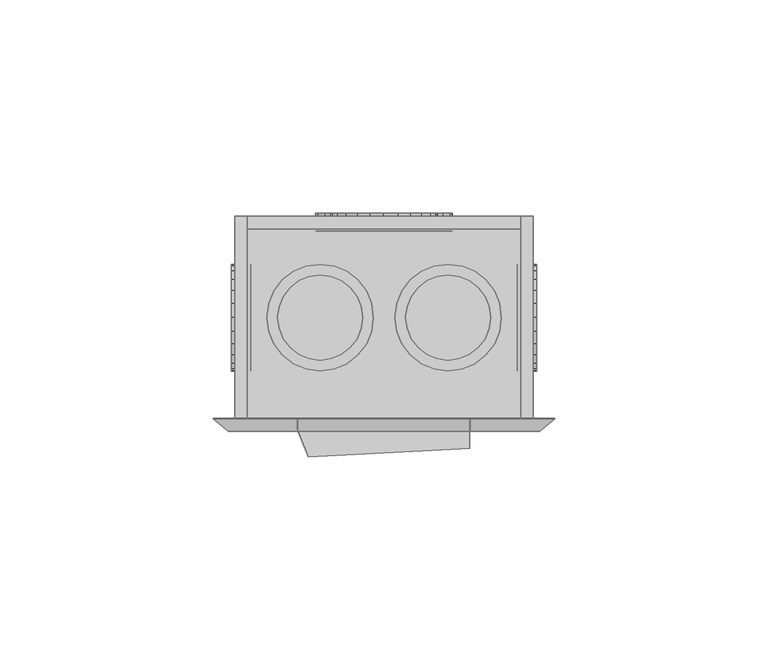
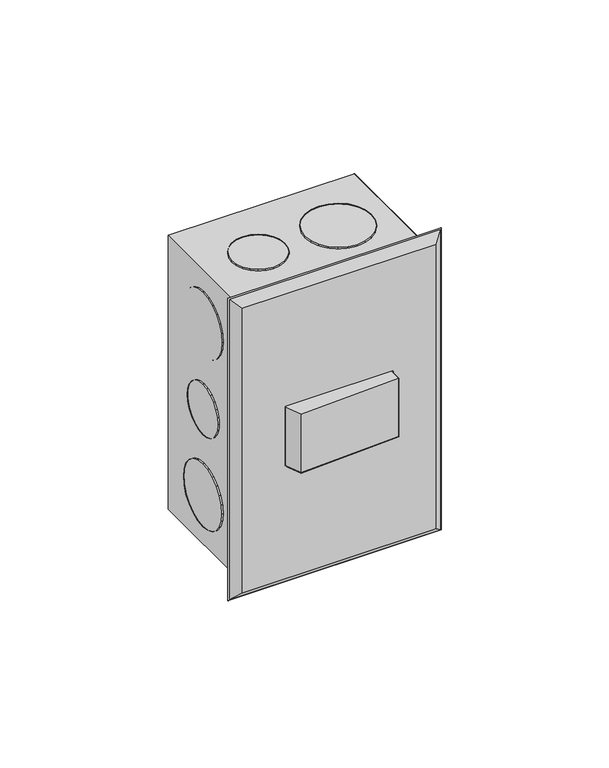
"""IFC4 building model written with IfcOpenShell, lengths in millimetres: proxy geometry,  210443 :  210443."""

from ifc_helpers import new_model, si_unit, origin, place, context, project, spatial, triangles, source, transform, mapped, element, save


def generic_models_f6650e14(model_context):
    return source(origin(), model_context, "Body", "Tessellation", [
        triangles([(31599.7990906, 13148.6997437, 1254.3000378), (31596.7992737, 13148.6997437, 1148.7000154), (31599.7990906, 13148.6997437, 1145.6999805), (31596.7992737, 13148.6997437, 1251.2999302), (31529.8010376, 13148.6997437, 1254.3000378), (31532.8008545, 13148.6997437, 1251.2999302), (31529.8010376, 13148.6997437, 1145.6999805), (31532.8008545, 13148.6997437, 1148.7000154), (31596.7992737, 13196.2003326, 1251.2999302), (31596.7992737, 13196.2003326, 1148.7000154), (31529.8010376, 13196.2003326, 1254.3000378), (31529.8010376, 13196.2003326, 1145.6999805), (31532.8008545, 13196.2003326, 1251.2999302), (31599.7990906, 13196.2003326, 1145.6999805), (31532.8008545, 13196.2003326, 1148.7000154), (31599.7990906, 13196.2003326, 1254.3000378), (31596.7992737, 13193.2005157, 1251.2999302), (31532.8008545, 13193.2005157, 1148.7000154), (31596.7992737, 13193.2005157, 1148.7000154), (31532.8008545, 13193.2005157, 1251.2999302), (31578.7003784, 13192.7005463, 1191.9999887), (31572.8007385, 13192.7005463, 1186.0999855), (31576.1005371, 13192.7005463, 1188.6999722), (31580.3002808, 13192.7005463, 1195.8999687), (31569.0009705, 13192.7005463, 1184.5000105), (31580.8002502, 13192.7005463, 1200.0000092), (31564.7989014, 13192.7005463, 1183.9999683), (31580.3002808, 13192.7005463, 1204.0999769), (31560.6991516, 13192.7005463, 1184.5000105), (31578.7003784, 13192.7005463, 1208.0000296), (31556.7993896, 13192.7005463, 1186.0999855), (31576.1005371, 13192.7005463, 1211.2999735), (31553.4995911, 13192.7005463, 1188.6999722), (31572.8007385, 13192.7005463, 1213.9000328), (31550.9997437, 13192.7005463, 1191.9999887), (31569.0009705, 13192.7005463, 1215.5000078), (31549.3998413, 13192.7005463, 1195.8999687), (31564.7989014, 13192.7005463, 1215.9999773), (31548.7998779, 13192.7005463, 1200.0000092), (31560.6991516, 13192.7005463, 1215.5000078), (31549.3998413, 13192.7005463, 1204.0999769), (31556.7993896, 13192.7005463, 1213.9000328), (31550.9997437, 13192.7005463, 1208.0000296), (31553.4995911, 13192.7005463, 1211.2999735), (31560.6991516, 13196.9002899, 1184.5000105), (31564.7989014, 13196.9002899, 1183.9999683), (31569.0009705, 13196.9002899, 1184.5000105), (31572.8007385, 13196.9002899, 1186.0999855), (31576.1005371, 13196.9002899, 1188.6999722), (31578.7003784, 13196.9002899, 1191.9999887), (31580.3002808, 13196.9002899, 1195.8999687), (31580.8002502, 13196.9002899, 1200.0000092), (31580.3002808, 13196.9002899, 1204.0999769), (31578.7003784, 13196.9002899, 1208.0000296), (31576.1005371, 13196.9002899, 1211.2999735), (31572.8007385, 13196.9002899, 1213.9000328), (31569.0009705, 13196.9002899, 1215.5000078), (31564.7989014, 13196.9002899, 1215.9999773), (31560.6991516, 13196.9002899, 1215.5000078), (31556.7993896, 13196.9002899, 1213.9000328), (31553.4995911, 13196.9002899, 1211.2999735), (31550.9997437, 13196.9002899, 1208.0000296), (31549.3998413, 13196.9002899, 1204.0999769), (31548.7998779, 13196.9002899, 1200.0000092), (31549.3998413, 13196.9002899, 1195.8999687), (31550.9997437, 13196.9002899, 1191.9999887), (31553.4995911, 13196.9002899, 1188.6999722), (31556.7993896, 13196.9002899, 1186.0999855), (31575.7005615, 13192.7005463, 1227.8000565), (31571.1008423, 13192.7005463, 1223.2000465), (31573.7006836, 13192.7005463, 1225.2000698), (31576.9004883, 13192.7005463, 1230.8000187), (31568.1010254, 13192.7005463, 1221.8999805), (31577.3004639, 13192.7005463, 1233.9999687), (31564.7989014, 13192.7005463, 1221.500005), (31576.9004883, 13192.7005463, 1237.2000641), (31561.5990967, 13192.7005463, 1221.8999805), (31575.7005615, 13192.7005463, 1240.3000202), (31558.5992798, 13192.7005463, 1223.2000465), (31573.7006836, 13192.7005463, 1242.800013), (31555.9994385, 13192.7005463, 1225.2000698), (31553.9995605, 13192.7005463, 1227.8000565), (31571.1008423, 13192.7005463, 1244.8000362), (31568.1010254, 13192.7005463, 1246.0999569), (31552.7996338, 13192.7005463, 1230.8000187), (31564.7989014, 13192.7005463, 1246.4999325), (31552.2996643, 13192.7005463, 1233.9999687), (31561.5990967, 13192.7005463, 1246.0999569), (31552.7996338, 13192.7005463, 1237.2000641), (31553.9995605, 13192.7005463, 1240.3000202), (31558.5992798, 13192.7005463, 1244.8000362), (31555.9994385, 13192.7005463, 1242.800013), (31552.7996338, 13196.9002899, 1230.8000187), (31553.9995605, 13196.9002899, 1227.8000565), (31555.9994385, 13196.9002899, 1225.2000698), (31558.5992798, 13196.9002899, 1223.2000465), (31561.5990967, 13196.9002899, 1221.8999805), (31564.7989014, 13196.9002899, 1221.500005), (31568.1010254, 13196.9002899, 1221.8999805), (31571.1008423, 13196.9002899, 1223.2000465), (31573.7006836, 13196.9002899, 1225.2000698), (31575.7005615, 13196.9002899, 1227.8000565), (31576.9004883, 13196.9002899, 1230.8000187), (31577.3004639, 13196.9002899, 1233.9999687), (31576.9004883, 13196.9002899, 1237.2000641), (31575.7005615, 13196.9002899, 1240.3000202), (31573.7006836, 13196.9002899, 1242.800013), (31571.1008423, 13196.9002899, 1244.8000362), (31568.1010254, 13196.9002899, 1246.0999569), (31564.7989014, 13196.9002899, 1246.4999325), (31561.5990967, 13196.9002899, 1246.0999569), (31558.5992798, 13196.9002899, 1244.8000362), (31555.9994385, 13196.9002899, 1242.800013), (31553.9995605, 13196.9002899, 1240.3000202), (31552.7996338, 13196.9002899, 1237.2000641), (31552.2996643, 13196.9002899, 1233.9999687), (31571.1008423, 13196.9002899, 1155.1999821), (31575.7005615, 13196.9002899, 1159.6999981), (31573.7006836, 13196.9002899, 1157.2000053), (31568.1010254, 13196.9002899, 1153.8999887), (31576.9004883, 13196.9002899, 1162.8000269), (31564.7989014, 13196.9002899, 1153.5000132), (31577.3004639, 13196.9002899, 1165.9999769), (31561.5990967, 13196.9002899, 1153.8999887), (31576.9004883, 13196.9002899, 1169.1999996), (31558.5992798, 13196.9002899, 1155.1999821), (31575.7005615, 13196.9002899, 1172.2000345), (31555.9994385, 13196.9002899, 1157.2000053), (31573.7006836, 13196.9002899, 1174.8000212), (31553.9995605, 13196.9002899, 1159.6999981), (31571.1008423, 13196.9002899, 1176.7999718), (31552.7996338, 13196.9002899, 1162.8000269), (31568.1010254, 13196.9002899, 1178.0999651), (31564.7989014, 13196.9002899, 1178.5000134), (31552.2996643, 13196.9002899, 1165.9999769), (31552.7996338, 13196.9002899, 1169.1999996), (31561.5990967, 13196.9002899, 1178.0999651), (31553.9995605, 13196.9002899, 1172.2000345), (31558.5992798, 13196.9002899, 1176.7999718), (31555.9994385, 13196.9002899, 1174.8000212), (31568.1010254, 13192.7005463, 1178.0999651), (31564.7989014, 13192.7005463, 1178.5000134), (31571.1008423, 13192.7005463, 1176.7999718), (31573.7006836, 13192.7005463, 1174.8000212), (31575.7005615, 13192.7005463, 1172.2000345), (31576.9004883, 13192.7005463, 1169.1999996), (31577.3004639, 13192.7005463, 1165.9999769), (31576.9004883, 13192.7005463, 1162.8000269), (31575.7005615, 13192.7005463, 1159.6999981), (31573.7006836, 13192.7005463, 1157.2000053), (31571.1008423, 13192.7005463, 1155.1999821), (31568.1010254, 13192.7005463, 1153.8999887), (31564.7989014, 13192.7005463, 1153.5000132), (31561.5990967, 13192.7005463, 1153.8999887), (31558.5992798, 13192.7005463, 1155.1999821), (31555.9994385, 13192.7005463, 1157.2000053), (31553.9995605, 13192.7005463, 1159.6999981), (31552.7996338, 13192.7005463, 1162.8000269), (31552.2996643, 13192.7005463, 1165.9999769), (31552.7996338, 13192.7005463, 1169.1999996), (31553.9995605, 13192.7005463, 1172.2000345), (31555.9994385, 13192.7005463, 1174.8000212), (31558.5992798, 13192.7005463, 1176.7999718), (31561.5990967, 13192.7005463, 1178.0999651), (31595.9993225, 13177.4003174, 1191.3000315), (31595.9993225, 13181.1000916, 1195.0000237), (31595.9993225, 13179.5001892, 1192.9000065), (31595.9993225, 13182.1000305, 1197.4000225), (31595.9993225, 13175.0004639, 1190.3000198), (31595.9993225, 13182.4000122, 1200.0000092), (31595.9993225, 13172.3994598, 1189.9999655), (31595.9993225, 13169.8996124, 1190.3000198), (31595.9993225, 13182.1000305, 1202.5999958), (31595.9993225, 13181.1000916, 1204.9999947), (31595.9993225, 13167.399765, 1191.3000315), (31595.9993225, 13179.5001892, 1207.1000118), (31595.9993225, 13165.3998871, 1192.9000065), (31595.9993225, 13163.7999847, 1195.0000237), (31595.9993225, 13177.4003174, 1208.6999868), (31595.9993225, 13162.8000458, 1197.4000225), (31595.9993225, 13175.0004639, 1209.6999985), (31595.9993225, 13162.4000702, 1200.0000092), (31595.9993225, 13172.3994598, 1209.9999802), (31595.9993225, 13162.8000458, 1202.5999958), (31595.9993225, 13169.8996124, 1209.6999985), (31595.9993225, 13167.399765, 1208.6999868), (31595.9993225, 13163.7999847, 1204.9999947), (31595.9993225, 13165.3998871, 1207.1000118), (31600.5990417, 13172.3994598, 1189.9999655), (31600.5990417, 13175.0004639, 1190.3000198), (31600.5990417, 13169.8996124, 1190.3000198), (31600.5990417, 13167.399765, 1191.3000315), (31600.5990417, 13165.3998871, 1192.9000065), (31600.5990417, 13163.7999847, 1195.0000237), (31600.5990417, 13162.8000458, 1197.4000225), (31600.5990417, 13162.4000702, 1200.0000092), (31600.5990417, 13162.8000458, 1202.5999958), (31600.5990417, 13163.7999847, 1204.9999947), (31600.5990417, 13165.3998871, 1207.1000118), (31600.5990417, 13167.399765, 1208.6999868), (31600.5990417, 13169.8996124, 1209.6999985), (31600.5990417, 13172.3994598, 1209.9999802), (31600.5990417, 13175.0004639, 1209.6999985), (31600.5990417, 13177.4003174, 1208.6999868), (31600.5990417, 13179.5001892, 1207.1000118), (31600.5990417, 13181.1000916, 1204.9999947), (31600.5990417, 13182.1000305, 1202.5999958), (31600.5990417, 13182.4000122, 1200.0000092), (31600.5990417, 13182.1000305, 1197.4000225), (31600.5990417, 13181.1000916, 1195.0000237), (31600.5990417, 13179.5001892, 1192.9000065), (31600.5990417, 13177.4003174, 1191.3000315), (31595.9993225, 13178.700238, 1223.2000465), (31595.9993225, 13183.2999573, 1227.8000565), (31595.9993225, 13181.3000793, 1225.2000698), (31595.9993225, 13175.7004211, 1221.8999805), (31595.9993225, 13184.499884, 1230.8000187), (31595.9993225, 13184.8998596, 1233.9999687), (31595.9993225, 13172.3994598, 1221.500005), (31595.9993225, 13169.1996552, 1221.8999805), (31595.9993225, 13184.499884, 1237.2000641), (31595.9993225, 13183.2999573, 1240.3000202), (31595.9993225, 13166.1998383, 1223.2000465), (31595.9993225, 13163.5999969, 1225.2000698), (31595.9993225, 13181.3000793, 1242.800013), (31595.9993225, 13161.600119, 1227.8000565), (31595.9993225, 13178.700238, 1244.8000362), (31595.9993225, 13160.4001923, 1230.8000187), (31595.9993225, 13175.7004211, 1246.0999569), (31595.9993225, 13159.9002228, 1233.9999687), (31595.9993225, 13172.3994598, 1246.4999325), (31595.9993225, 13160.4001923, 1237.2000641), (31595.9993225, 13169.1996552, 1246.0999569), (31595.9993225, 13161.600119, 1240.3000202), (31595.9993225, 13166.1998383, 1244.8000362), (31595.9993225, 13163.5999969, 1242.800013), (31600.5990417, 13172.3994598, 1221.500005), (31600.5990417, 13175.7004211, 1221.8999805), (31600.5990417, 13169.1996552, 1221.8999805), (31600.5990417, 13166.1998383, 1223.2000465), (31600.5990417, 13163.5999969, 1225.2000698), (31600.5990417, 13161.600119, 1227.8000565), (31600.5990417, 13160.4001923, 1230.8000187), (31600.5990417, 13159.9002228, 1233.9999687), (31600.5990417, 13160.4001923, 1237.2000641), (31600.5990417, 13161.600119, 1240.3000202), (31600.5990417, 13163.5999969, 1242.800013), (31600.5990417, 13166.1998383, 1244.8000362), (31600.5990417, 13169.1996552, 1246.0999569), (31600.5990417, 13172.3994598, 1246.4999325), (31600.5990417, 13175.7004211, 1246.0999569), (31600.5990417, 13178.700238, 1244.8000362), (31600.5990417, 13181.3000793, 1242.800013), (31600.5990417, 13183.2999573, 1240.3000202), (31600.5990417, 13184.499884, 1237.2000641), (31600.5990417, 13184.8998596, 1233.9999687), (31600.5990417, 13184.499884, 1230.8000187), (31600.5990417, 13183.2999573, 1227.8000565), (31600.5990417, 13181.3000793, 1225.2000698), (31600.5990417, 13178.700238, 1223.2000465), (31600.5990417, 13183.2999573, 1159.6999981), (31600.5990417, 13178.700238, 1155.1999821), (31600.5990417, 13181.3000793, 1157.2000053), (31600.5990417, 13184.499884, 1162.8000269), (31600.5990417, 13175.7004211, 1153.8999887), (31600.5990417, 13184.8998596, 1165.9999769), (31600.5990417, 13172.3994598, 1153.5000132), (31600.5990417, 13184.499884, 1169.1999996), (31600.5990417, 13169.1996552, 1153.8999887), (31600.5990417, 13183.2999573, 1172.2000345), (31600.5990417, 13166.1998383, 1155.1999821), (31600.5990417, 13181.3000793, 1174.8000212), (31600.5990417, 13163.5999969, 1157.2000053), (31600.5990417, 13178.700238, 1176.7999718), (31600.5990417, 13161.600119, 1159.6999981), (31600.5990417, 13175.7004211, 1178.0999651), (31600.5990417, 13160.4001923, 1162.8000269), (31600.5990417, 13172.3994598, 1178.5000134), (31600.5990417, 13159.9002228, 1165.9999769), (31600.5990417, 13169.1996552, 1178.0999651), (31600.5990417, 13160.4001923, 1169.1999996), (31600.5990417, 13166.1998383, 1176.7999718), (31600.5990417, 13161.600119, 1172.2000345), (31600.5990417, 13163.5999969, 1174.8000212), (31595.9993225, 13175.7004211, 1178.0999651), (31595.9993225, 13172.3994598, 1178.5000134), (31595.9993225, 13169.1996552, 1178.0999651), (31595.9993225, 13166.1998383, 1176.7999718), (31595.9993225, 13163.5999969, 1174.8000212), (31595.9993225, 13161.600119, 1172.2000345), (31595.9993225, 13160.4001923, 1169.1999996), (31595.9993225, 13159.9002228, 1165.9999769), (31595.9993225, 13160.4001923, 1162.8000269), (31595.9993225, 13161.600119, 1159.6999981), (31595.9993225, 13163.5999969, 1157.2000053), (31595.9993225, 13166.1998383, 1155.1999821), (31595.9993225, 13169.1996552, 1153.8999887), (31595.9993225, 13172.3994598, 1153.5000132), (31595.9993225, 13175.7004211, 1153.8999887), (31595.9993225, 13178.700238, 1155.1999821), (31595.9993225, 13181.3000793, 1157.2000053), (31595.9993225, 13183.2999573, 1159.6999981), (31595.9993225, 13184.499884, 1162.8000269), (31595.9993225, 13184.8998596, 1165.9999769), (31595.9993225, 13184.499884, 1169.1999996), (31595.9993225, 13183.2999573, 1172.2000345), (31595.9993225, 13181.3000793, 1174.8000212), (31595.9993225, 13178.700238, 1176.7999718), (31533.6008057, 13181.1000916, 1195.0000237), (31533.6008057, 13177.4003174, 1191.3000315), (31533.6008057, 13179.5001892, 1192.9000065), (31533.6008057, 13182.1000305, 1197.4000225), (31533.6008057, 13175.0004639, 1190.3000198), (31533.6008057, 13182.4000122, 1200.0000092), (31533.6008057, 13172.3994598, 1189.9999655), (31533.6008057, 13182.1000305, 1202.5999958), (31533.6008057, 13169.8996124, 1190.3000198), (31533.6008057, 13181.1000916, 1204.9999947), (31533.6008057, 13167.399765, 1191.3000315), (31533.6008057, 13179.5001892, 1207.1000118), (31533.6008057, 13165.3998871, 1192.9000065), (31533.6008057, 13177.4003174, 1208.6999868), (31533.6008057, 13163.7999847, 1195.0000237), (31533.6008057, 13175.0004639, 1209.6999985), (31533.6008057, 13162.8000458, 1197.4000225), (31533.6008057, 13162.4000702, 1200.0000092), (31533.6008057, 13172.3994598, 1209.9999802), (31533.6008057, 13169.8996124, 1209.6999985), (31533.6008057, 13162.8000458, 1202.5999958), (31533.6008057, 13167.399765, 1208.6999868), (31533.6008057, 13163.7999847, 1204.9999947), (31533.6008057, 13165.3998871, 1207.1000118), (31529.0010864, 13175.0004639, 1209.6999985), (31529.0010864, 13172.3994598, 1209.9999802), (31529.0010864, 13169.8996124, 1209.6999985), (31529.0010864, 13167.399765, 1208.6999868), (31529.0010864, 13165.3998871, 1207.1000118), (31529.0010864, 13163.7999847, 1204.9999947), (31529.0010864, 13162.8000458, 1202.5999958), (31529.0010864, 13162.4000702, 1200.0000092), (31529.0010864, 13162.8000458, 1197.4000225), (31529.0010864, 13163.7999847, 1195.0000237), (31529.0010864, 13165.3998871, 1192.9000065), (31529.0010864, 13167.399765, 1191.3000315), (31529.0010864, 13169.8996124, 1190.3000198), (31529.0010864, 13172.3994598, 1189.9999655), (31529.0010864, 13175.0004639, 1190.3000198), (31529.0010864, 13177.4003174, 1191.3000315), (31529.0010864, 13179.5001892, 1192.9000065), (31529.0010864, 13181.1000916, 1195.0000237), (31529.0010864, 13182.1000305, 1197.4000225), (31529.0010864, 13182.4000122, 1200.0000092), (31529.0010864, 13182.1000305, 1202.5999958), (31529.0010864, 13181.1000916, 1204.9999947), (31529.0010864, 13179.5001892, 1207.1000118), (31529.0010864, 13177.4003174, 1208.6999868), (31533.6008057, 13183.2999573, 1159.6999981), (31533.6008057, 13178.700238, 1155.1999821), (31533.6008057, 13181.3000793, 1157.2000053), (31533.6008057, 13184.499884, 1162.8000269), (31533.6008057, 13175.7004211, 1153.8999887), (31533.6008057, 13184.8998596, 1165.9999769), (31533.6008057, 13172.3994598, 1153.5000132), (31533.6008057, 13184.499884, 1169.1999996), (31533.6008057, 13169.1996552, 1153.8999887), (31533.6008057, 13183.2999573, 1172.2000345), (31533.6008057, 13166.1998383, 1155.1999821), (31533.6008057, 13181.3000793, 1174.8000212), (31533.6008057, 13163.5999969, 1157.2000053), (31533.6008057, 13178.700238, 1176.7999718), (31533.6008057, 13161.600119, 1159.6999981), (31533.6008057, 13175.7004211, 1178.0999651), (31533.6008057, 13160.4001923, 1162.8000269), (31533.6008057, 13172.3994598, 1178.5000134), (31533.6008057, 13159.9002228, 1165.9999769), (31533.6008057, 13169.1996552, 1178.0999651), (31533.6008057, 13160.4001923, 1169.1999996), (31533.6008057, 13166.1998383, 1176.7999718), (31533.6008057, 13161.600119, 1172.2000345), (31533.6008057, 13163.5999969, 1174.8000212), (31529.0010864, 13175.7004211, 1178.0999651), (31529.0010864, 13172.3994598, 1178.5000134), (31529.0010864, 13169.1996552, 1178.0999651), (31529.0010864, 13166.1998383, 1176.7999718), (31529.0010864, 13163.5999969, 1174.8000212), (31529.0010864, 13161.600119, 1172.2000345), (31529.0010864, 13160.4001923, 1169.1999996), (31529.0010864, 13159.9002228, 1165.9999769), (31529.0010864, 13160.4001923, 1162.8000269), (31529.0010864, 13161.600119, 1159.6999981), (31529.0010864, 13163.5999969, 1157.2000053), (31529.0010864, 13166.1998383, 1155.1999821), (31529.0010864, 13169.1996552, 1153.8999887), (31529.0010864, 13172.3994598, 1153.5000132), (31529.0010864, 13175.7004211, 1153.8999887), (31529.0010864, 13178.700238, 1155.1999821), (31529.0010864, 13181.3000793, 1157.2000053), (31529.0010864, 13183.2999573, 1159.6999981), (31529.0010864, 13184.499884, 1162.8000269), (31529.0010864, 13184.8998596, 1165.9999769), (31529.0010864, 13184.499884, 1169.1999996), (31529.0010864, 13183.2999573, 1172.2000345), (31529.0010864, 13181.3000793, 1174.8000212), (31529.0010864, 13178.700238, 1176.7999718), (31529.0010864, 13178.700238, 1223.2000465), (31529.0010864, 13183.2999573, 1227.8000565), (31529.0010864, 13181.3000793, 1225.2000698), (31529.0010864, 13175.7004211, 1221.8999805), (31529.0010864, 13184.499884, 1230.8000187), (31529.0010864, 13184.8998596, 1233.9999687), (31529.0010864, 13172.3994598, 1221.500005), (31529.0010864, 13169.1996552, 1221.8999805), (31529.0010864, 13184.499884, 1237.2000641), (31529.0010864, 13183.2999573, 1240.3000202), (31529.0010864, 13166.1998383, 1223.2000465), (31529.0010864, 13163.5999969, 1225.2000698), (31529.0010864, 13181.3000793, 1242.800013), (31529.0010864, 13161.600119, 1227.8000565), (31529.0010864, 13178.700238, 1244.8000362), (31529.0010864, 13160.4001923, 1230.8000187), (31529.0010864, 13175.7004211, 1246.0999569), (31529.0010864, 13159.9002228, 1233.9999687), (31529.0010864, 13172.3994598, 1246.4999325), (31529.0010864, 13160.4001923, 1237.2000641), (31529.0010864, 13169.1996552, 1246.0999569), (31529.0010864, 13161.600119, 1240.3000202), (31529.0010864, 13166.1998383, 1244.8000362), (31529.0010864, 13163.5999969, 1242.800013), (31533.6008057, 13172.3994598, 1221.500005), (31533.6008057, 13175.7004211, 1221.8999805), (31533.6008057, 13169.1996552, 1221.8999805), (31533.6008057, 13166.1998383, 1223.2000465), (31533.6008057, 13163.5999969, 1225.2000698), (31533.6008057, 13161.600119, 1227.8000565), (31533.6008057, 13160.4001923, 1230.8000187), (31533.6008057, 13159.9002228, 1233.9999687), (31533.6008057, 13160.4001923, 1237.2000641), (31533.6008057, 13161.600119, 1240.3000202), (31533.6008057, 13163.5999969, 1242.800013), (31533.6008057, 13166.1998383, 1244.8000362), (31533.6008057, 13169.1996552, 1246.0999569), (31533.6008057, 13172.3994598, 1246.4999325), (31533.6008057, 13175.7004211, 1246.0999569), (31533.6008057, 13178.700238, 1244.8000362), (31533.6008057, 13181.3000793, 1242.800013), (31533.6008057, 13183.2999573, 1240.3000202), (31533.6008057, 13184.499884, 1237.2000641), (31533.6008057, 13184.8998596, 1233.9999687), (31533.6008057, 13184.499884, 1230.8000187), (31533.6008057, 13183.2999573, 1227.8000565), (31533.6008057, 13181.3000793, 1225.2000698), (31533.6008057, 13178.700238, 1223.2000465), (31590.699646, 13178.700238, 1250.9999485), (31586.0999268, 13183.2999573, 1250.9999485), (31588.6997681, 13181.3000793, 1250.9999485), (31591.8995728, 13175.7004211, 1250.9999485), (31583.1001099, 13184.499884, 1250.9999485), (31579.8003113, 13184.8998596, 1250.9999485), (31592.2995483, 13172.3994598, 1250.9999485), (31591.8995728, 13169.1996552, 1250.9999485), (31576.6005066, 13184.499884, 1250.9999485), (31573.6006897, 13183.2999573, 1250.9999485), (31590.699646, 13166.1998383, 1250.9999485), (31588.6997681, 13163.5999969, 1250.9999485), (31571.0008484, 13181.3000793, 1250.9999485), (31569.0009705, 13178.700238, 1250.9999485), (31586.0999268, 13161.600119, 1250.9999485), (31583.1001099, 13160.4001923, 1250.9999485), (31567.8010437, 13175.7004211, 1250.9999485), (31579.8003113, 13159.9002228, 1250.9999485), (31567.3010742, 13172.3994598, 1250.9999485), (31576.6005066, 13160.4001923, 1250.9999485), (31567.8010437, 13169.1996552, 1250.9999485), (31569.0009705, 13166.1998383, 1250.9999485), (31573.6006897, 13161.600119, 1250.9999485), (31571.0008484, 13163.5999969, 1250.9999485), (31579.8003113, 13184.8998596, 1255.1999828), (31576.6005066, 13184.499884, 1255.1999828), (31583.1001099, 13184.499884, 1255.1999828), (31586.0999268, 13183.2999573, 1255.1999828), (31588.6997681, 13181.3000793, 1255.1999828), (31590.699646, 13178.700238, 1255.1999828), (31591.8995728, 13175.7004211, 1255.1999828), (31592.2995483, 13172.3994598, 1255.1999828), (31591.8995728, 13169.1996552, 1255.1999828), (31590.699646, 13166.1998383, 1255.1999828), (31588.6997681, 13163.5999969, 1255.1999828), (31586.0999268, 13161.600119, 1255.1999828), (31583.1001099, 13160.4001923, 1255.1999828), (31579.8003113, 13159.9002228, 1255.1999828), (31576.6005066, 13160.4001923, 1255.1999828), (31573.6006897, 13161.600119, 1255.1999828), (31571.0008484, 13163.5999969, 1255.1999828), (31569.0009705, 13166.1998383, 1255.1999828), (31567.8010437, 13169.1996552, 1255.1999828), (31567.3010742, 13172.3994598, 1255.1999828), (31567.8010437, 13175.7004211, 1255.1999828), (31569.0009705, 13178.700238, 1255.1999828), (31571.0008484, 13181.3000793, 1255.1999828), (31573.6006897, 13183.2999573, 1255.1999828), (31558.4992859, 13177.4003174, 1250.9999485), (31554.7995117, 13181.1000916, 1250.9999485), (31556.8993835, 13179.5001892, 1250.9999485), (31552.3996582, 13182.1000305, 1250.9999485), (31559.4992249, 13175.0004639, 1250.9999485), (31549.7998169, 13182.4000122, 1250.9999485), (31559.7992065, 13172.3994598, 1250.9999485), (31559.4992249, 13169.8996124, 1250.9999485), (31547.1999756, 13182.1000305, 1250.9999485), (31544.8001221, 13181.1000916, 1250.9999485), (31558.4992859, 13167.399765, 1250.9999485), (31542.8002441, 13179.5001892, 1250.9999485), (31556.8993835, 13165.3998871, 1250.9999485), (31554.7995117, 13163.7999847, 1250.9999485), (31541.2003418, 13177.4003174, 1250.9999485), (31540.2004028, 13175.0004639, 1250.9999485), (31552.3996582, 13162.8000458, 1250.9999485), (31549.7998169, 13162.4000702, 1250.9999485), (31539.8004272, 13172.3994598, 1250.9999485), (31547.1999756, 13162.8000458, 1250.9999485), (31540.2004028, 13169.8996124, 1250.9999485), (31544.8001221, 13163.7999847, 1250.9999485), (31541.2003418, 13167.399765, 1250.9999485), (31542.8002441, 13165.3998871, 1250.9999485), (31547.1999756, 13182.1000305, 1255.1999828), (31544.8001221, 13181.1000916, 1255.1999828), (31549.7998169, 13182.4000122, 1255.1999828), (31552.3996582, 13182.1000305, 1255.1999828), (31554.7995117, 13181.1000916, 1255.1999828), (31556.8993835, 13179.5001892, 1255.1999828), (31558.4992859, 13177.4003174, 1255.1999828), (31559.4992249, 13175.0004639, 1255.1999828), (31559.7992065, 13172.3994598, 1255.1999828), (31559.4992249, 13169.8996124, 1255.1999828), (31558.4992859, 13167.399765, 1255.1999828), (31556.8993835, 13165.3998871, 1255.1999828), (31554.7995117, 13163.7999847, 1255.1999828), (31552.3996582, 13162.8000458, 1255.1999828), (31549.7998169, 13162.4000702, 1255.1999828), (31547.1999756, 13162.8000458, 1255.1999828), (31544.8001221, 13163.7999847, 1255.1999828), (31542.8002441, 13165.3998871, 1255.1999828), (31541.2003418, 13167.399765, 1255.1999828), (31540.2004028, 13169.8996124, 1255.1999828), (31539.8004272, 13172.3994598, 1255.1999828), (31540.2004028, 13175.0004639, 1255.1999828), (31541.2003418, 13177.4003174, 1255.1999828), (31542.8002441, 13179.5001892, 1255.1999828), (31588.4997803, 13177.4003174, 1144.8000355), (31584.8000061, 13181.1000916, 1144.8000355), (31586.8998779, 13179.5001892, 1144.8000355), (31582.4001526, 13182.1000305, 1144.8000355), (31589.4997192, 13175.0004639, 1144.8000355), (31579.8003113, 13182.4000122, 1144.8000355), (31589.7997009, 13172.3994598, 1144.8000355), (31589.4997192, 13169.8996124, 1144.8000355), (31577.20047, 13182.1000305, 1144.8000355), (31574.8006165, 13181.1000916, 1144.8000355), (31588.4997803, 13167.399765, 1144.8000355), (31572.8007385, 13179.5001892, 1144.8000355), (31586.8998779, 13165.3998871, 1144.8000355), (31584.8000061, 13163.7999847, 1144.8000355), (31571.2008362, 13177.4003174, 1144.8000355), (31570.2008972, 13175.0004639, 1144.8000355), (31582.4001526, 13162.8000458, 1144.8000355), (31579.8003113, 13162.4000702, 1144.8000355), (31569.8009216, 13172.3994598, 1144.8000355), (31577.20047, 13162.8000458, 1144.8000355), (31570.2008972, 13169.8996124, 1144.8000355), (31574.8006165, 13163.7999847, 1144.8000355), (31571.2008362, 13167.399765, 1144.8000355), (31572.8007385, 13165.3998871, 1144.8000355), (31582.4001526, 13182.1000305, 1149.099991), (31579.8003113, 13182.4000122, 1149.099991), (31584.8000061, 13181.1000916, 1149.099991), (31586.8998779, 13179.5001892, 1149.099991), (31588.4997803, 13177.4003174, 1149.099991), (31589.4997192, 13175.0004639, 1149.099991), (31589.7997009, 13172.3994598, 1149.099991), (31589.4997192, 13169.8996124, 1149.099991), (31588.4997803, 13167.399765, 1149.099991), (31586.8998779, 13165.3998871, 1149.099991), (31584.8000061, 13163.7999847, 1149.099991), (31582.4001526, 13162.8000458, 1149.099991), (31579.8003113, 13162.4000702, 1149.099991), (31577.20047, 13162.8000458, 1149.099991), (31574.8006165, 13163.7999847, 1149.099991), (31572.8007385, 13165.3998871, 1149.099991), (31571.2008362, 13167.399765, 1149.099991), (31570.2008972, 13169.8996124, 1149.099991), (31569.8009216, 13172.3994598, 1149.099991), (31570.2008972, 13175.0004639, 1149.099991), (31571.2008362, 13177.4003174, 1149.099991), (31572.8007385, 13179.5001892, 1149.099991), (31574.8006165, 13181.1000916, 1149.099991), (31577.20047, 13182.1000305, 1149.099991), (31560.6991516, 13178.700238, 1144.8000355), (31556.0994324, 13183.2999573, 1144.8000355), (31558.6992737, 13181.3000793, 1144.8000355), (31561.8990784, 13175.7004211, 1144.8000355), (31553.0996155, 13184.499884, 1144.8000355), (31549.7998169, 13184.8998596, 1144.8000355), (31562.299054, 13172.3994598, 1144.8000355), (31561.8990784, 13169.1996552, 1144.8000355), (31546.6000122, 13184.499884, 1144.8000355), (31543.6001953, 13183.2999573, 1144.8000355), (31560.6991516, 13166.1998383, 1144.8000355), (31558.6992737, 13163.5999969, 1144.8000355), (31541.000354, 13181.3000793, 1144.8000355), (31539.0004761, 13178.700238, 1144.8000355), (31556.0994324, 13161.600119, 1144.8000355), (31553.0996155, 13160.4001923, 1144.8000355), (31537.8005493, 13175.7004211, 1144.8000355), (31549.7998169, 13159.9002228, 1144.8000355), (31537.3005798, 13172.3994598, 1144.8000355), (31546.6000122, 13160.4001923, 1144.8000355), (31537.8005493, 13169.1996552, 1144.8000355), (31539.0004761, 13166.1998383, 1144.8000355), (31543.6001953, 13161.600119, 1144.8000355), (31541.000354, 13163.5999969, 1144.8000355), (31546.6000122, 13184.499884, 1149.099991), (31543.6001953, 13183.2999573, 1149.099991), (31549.7998169, 13184.8998596, 1149.099991), (31553.0996155, 13184.499884, 1149.099991), (31556.0994324, 13183.2999573, 1149.099991), (31558.6992737, 13181.3000793, 1149.099991), (31560.6991516, 13178.700238, 1149.099991), (31561.8990784, 13175.7004211, 1149.099991), (31562.299054, 13172.3994598, 1149.099991), (31561.8990784, 13169.1996552, 1149.099991), (31560.6991516, 13166.1998383, 1149.099991), (31558.6992737, 13163.5999969, 1149.099991), (31556.0994324, 13161.600119, 1149.099991), (31553.0996155, 13160.4001923, 1149.099991), (31549.7998169, 13159.9002228, 1149.099991), (31546.6000122, 13160.4001923, 1149.099991), (31543.6001953, 13161.600119, 1149.099991), (31541.000354, 13163.5999969, 1149.099991), (31539.0004761, 13166.1998383, 1149.099991), (31537.8005493, 13169.1996552, 1149.099991), (31537.3005798, 13172.3994598, 1149.099991), (31537.8005493, 13175.7004211, 1149.099991), (31539.0004761, 13178.700238, 1149.099991), (31541.000354, 13181.3000793, 1149.099991), (31524.7990173, 13148.6997437, 1139.9999651), (31584.9999939, 13148.6997437, 1188.2999966), (31604.8011108, 13148.6997437, 1139.9999651), (31544.6001343, 13148.6997437, 1188.2999966), (31524.7990173, 13148.6997437, 1259.9999805), (31544.6001343, 13148.6997437, 1211.7000217), (31604.8011108, 13148.6997437, 1259.9999805), (31584.9999939, 13148.6997437, 1211.7000217), (31544.6001343, 13145.6999268, 1188.2999966), (31544.6001343, 13145.6999268, 1211.7000217), (31584.9999939, 13145.6999268, 1188.2999966), (31584.9999939, 13145.6999268, 1211.7000217), (31601.298999, 13145.6999268, 1143.4999695), (31601.298999, 13145.6999268, 1256.5000488), (31528.3011292, 13145.6999268, 1143.4999695), (31528.3011292, 13145.6999268, 1256.5000488), (31584.9, 13141.7001709, 1188.1000088), (31544.5001404, 13148.6997437, 1188.1000088), (31584.9, 13148.6997437, 1188.1000088), (31547.0999817, 13139.8002869, 1188.1000088), (31544.5001404, 13146.1998962, 1188.1000088), (31584.9, 13148.6997437, 1211.500034), (31544.5001404, 13148.6997437, 1211.500034), (31584.9, 13141.7001709, 1211.500034), (31547.0999817, 13139.8002869, 1211.500034), (31544.5001404, 13146.1998962, 1211.500034)], [[1, 2, 3], [2, 1, 4], [5, 4, 1], [4, 5, 6], [3, 2, 7], [7, 2, 8], [7, 8, 6], [7, 6, 5], [2, 9, 10], [9, 2, 4], [7, 11, 12], [11, 7, 5], [4, 13, 9], [13, 4, 6], [3, 12, 14], [12, 3, 7], [13, 8, 15], [8, 13, 6], [16, 3, 14], [3, 16, 1], [15, 2, 10], [2, 15, 8], [11, 1, 16], [1, 11, 5], [12, 10, 14], [10, 12, 15], [11, 15, 12], [15, 11, 13], [14, 10, 16], [16, 10, 9], [16, 9, 13], [16, 13, 11], [17, 18, 19], [18, 17, 20], [18, 13, 15], [13, 18, 20], [19, 15, 10], [15, 19, 18], [9, 19, 10], [19, 9, 17], [13, 17, 9], [17, 13, 20], [15, 9, 10], [9, 15, 13], [21, 22, 23], [22, 21, 24], [25, 22, 24], [25, 24, 26], [27, 25, 26], [27, 26, 28], [29, 27, 28], [29, 28, 30], [31, 29, 30], [31, 30, 32], [31, 32, 33], [33, 32, 34], [33, 34, 35], [35, 34, 36], [35, 36, 37], [37, 36, 38], [37, 38, 39], [39, 38, 40], [39, 40, 41], [41, 40, 42], [41, 42, 43], [43, 42, 44], [27, 45, 46], [45, 27, 29], [25, 46, 47], [46, 25, 27], [22, 47, 48], [47, 22, 25], [23, 48, 49], [48, 23, 22], [50, 23, 49], [23, 50, 21], [51, 21, 50], [21, 51, 24], [52, 24, 51], [24, 52, 26], [53, 26, 52], [26, 53, 28], [54, 28, 53], [28, 54, 30], [55, 30, 54], [30, 55, 32], [56, 32, 55], [32, 56, 34], [57, 34, 56], [34, 57, 36], [58, 36, 57], [36, 58, 38], [59, 38, 58], [38, 59, 40], [60, 40, 59], [40, 60, 42], [61, 42, 60], [42, 61, 44], [43, 61, 62], [61, 43, 44], [41, 62, 63], [62, 41, 43], [39, 63, 64], [63, 39, 41], [37, 64, 65], [64, 37, 39], [35, 65, 66], [65, 35, 37], [33, 66, 67], [66, 33, 35], [31, 67, 68], [67, 31, 33], [29, 68, 45], [68, 29, 31], [48, 50, 49], [50, 48, 47], [51, 50, 47], [51, 47, 46], [52, 51, 46], [52, 46, 45], [53, 52, 45], [53, 45, 68], [54, 53, 68], [54, 68, 67], [54, 67, 55], [55, 67, 66], [55, 66, 56], [56, 66, 65], [56, 65, 57], [57, 65, 64], [57, 64, 58], [58, 64, 63], [58, 63, 59], [59, 63, 62], [59, 62, 60], [60, 62, 61], [69, 70, 71], [70, 69, 72], [73, 70, 72], [73, 72, 74], [75, 73, 74], [75, 74, 76], [77, 75, 76], [77, 76, 78], [79, 77, 78], [79, 78, 80], [81, 79, 80], [81, 80, 82], [82, 80, 83], [82, 83, 84], [82, 84, 85], [85, 84, 86], [85, 86, 87], [87, 86, 88], [87, 88, 89], [89, 88, 90], [90, 88, 91], [90, 91, 92], [82, 93, 94], [93, 82, 85], [81, 94, 95], [94, 81, 82], [79, 95, 96], [95, 79, 81], [77, 96, 97], [96, 77, 79], [75, 97, 98], [97, 75, 77], [73, 98, 99], [98, 73, 75], [70, 99, 100], [99, 70, 73], [71, 100, 101], [100, 71, 70], [102, 71, 101], [71, 102, 69], [103, 69, 102], [69, 103, 72], [104, 72, 103], [72, 104, 74], [105, 74, 104], [74, 105, 76], [106, 76, 105], [76, 106, 78], [107, 78, 106], [78, 107, 80], [108, 80, 107], [80, 108, 83], [109, 83, 108], [83, 109, 84], [110, 84, 109], [84, 110, 86], [111, 86, 110], [86, 111, 88], [112, 88, 111], [88, 112, 91], [113, 91, 112], [91, 113, 92], [90, 113, 114], [113, 90, 92], [89, 114, 115], [114, 89, 90], [87, 115, 116], [115, 87, 89], [85, 116, 93], [116, 85, 87], [100, 102, 101], [102, 100, 99], [103, 102, 99], [103, 99, 98], [104, 103, 98], [104, 98, 97], [105, 104, 97], [106, 105, 97], [106, 97, 96], [106, 96, 95], [106, 95, 107], [107, 95, 94], [107, 94, 108], [108, 94, 93], [108, 93, 109], [109, 93, 116], [109, 116, 110], [110, 116, 115], [110, 115, 111], [111, 115, 114], [111, 114, 112], [112, 114, 113], [117, 118, 119], [118, 117, 120], [121, 118, 120], [121, 120, 122], [123, 121, 122], [123, 122, 124], [125, 123, 124], [125, 124, 126], [127, 125, 126], [127, 126, 128], [127, 128, 129], [129, 128, 130], [129, 130, 131], [131, 130, 132], [131, 132, 133], [133, 132, 134], [134, 132, 135], [134, 135, 136], [134, 136, 137], [137, 136, 138], [137, 138, 139], [139, 138, 140], [134, 141, 133], [141, 134, 142], [133, 143, 131], [143, 133, 141], [131, 144, 129], [144, 131, 143], [129, 145, 127], [145, 129, 144], [127, 146, 125], [146, 127, 145], [125, 147, 123], [147, 125, 146], [123, 148, 121], [148, 123, 147], [121, 149, 118], [149, 121, 148], [118, 150, 119], [150, 118, 149], [150, 117, 119], [117, 150, 151], [151, 120, 117], [120, 151, 152], [152, 122, 120], [122, 152, 153], [153, 124, 122], [124, 153, 154], [154, 126, 124], [126, 154, 155], [155, 128, 126], [128, 155, 156], [156, 130, 128], [130, 156, 157], [157, 132, 130], [132, 157, 158], [158, 135, 132], [135, 158, 159], [159, 136, 135], [136, 159, 160], [160, 138, 136], [138, 160, 161], [161, 140, 138], [140, 161, 162], [140, 163, 139], [163, 140, 162], [139, 164, 137], [164, 139, 163], [137, 142, 134], [142, 137, 164], [149, 151, 150], [151, 149, 148], [152, 151, 148], [153, 152, 148], [153, 148, 147], [153, 147, 146], [154, 153, 146], [154, 146, 145], [155, 154, 145], [155, 145, 144], [156, 155, 144], [156, 144, 157], [157, 144, 143], [157, 143, 141], [157, 141, 158], [158, 141, 142], [158, 142, 159], [159, 142, 164], [159, 164, 160], [160, 164, 163], [160, 163, 161], [161, 163, 162], [165, 166, 167], [168, 166, 165], [168, 165, 169], [170, 168, 169], [170, 169, 171], [170, 171, 172], [173, 170, 172], [174, 173, 172], [174, 172, 175], [176, 174, 175], [176, 175, 177], [176, 177, 178], [176, 178, 179], [179, 178, 180], [179, 180, 181], [181, 180, 182], [181, 182, 183], [183, 182, 184], [183, 184, 185], [185, 184, 186], [186, 184, 187], [186, 187, 188], [189, 169, 190], [169, 189, 171], [191, 171, 189], [171, 191, 172], [192, 172, 191], [172, 192, 175], [193, 175, 192], [175, 193, 177], [194, 177, 193], [177, 194, 178], [195, 178, 194], [178, 195, 180], [196, 180, 195], [180, 196, 182], [197, 182, 196], [182, 197, 184], [198, 184, 197], [184, 198, 187], [199, 187, 198], [187, 199, 188], [186, 199, 200], [199, 186, 188], [185, 200, 201], [200, 185, 186], [183, 201, 202], [201, 183, 185], [181, 202, 203], [202, 181, 183], [179, 203, 204], [203, 179, 181], [176, 204, 205], [204, 176, 179], [174, 205, 206], [205, 174, 176], [173, 206, 207], [206, 173, 174], [170, 207, 208], [207, 170, 173], [168, 208, 209], [208, 168, 170], [166, 209, 210], [209, 166, 168], [167, 210, 211], [210, 167, 166], [212, 167, 211], [167, 212, 165], [190, 165, 212], [165, 190, 169], [210, 212, 211], [212, 210, 209], [190, 212, 209], [190, 209, 208], [189, 190, 208], [189, 208, 207], [191, 189, 207], [191, 207, 206], [192, 191, 206], [192, 206, 205], [192, 205, 193], [193, 205, 204], [193, 204, 194], [194, 204, 203], [194, 203, 195], [195, 203, 196], [196, 203, 202], [196, 202, 201], [196, 201, 197], [197, 201, 200], [197, 200, 198], [198, 200, 199], [213, 214, 215], [214, 213, 216], [217, 214, 216], [218, 217, 216], [218, 216, 219], [218, 219, 220], [221, 218, 220], [222, 221, 220], [222, 220, 223], [222, 223, 224], [222, 224, 225], [225, 224, 226], [225, 226, 227], [227, 226, 228], [227, 228, 229], [229, 228, 230], [229, 230, 231], [231, 230, 232], [231, 232, 233], [233, 232, 234], [233, 234, 235], [235, 234, 236], [237, 216, 238], [216, 237, 219], [239, 219, 237], [219, 239, 220], [240, 220, 239], [220, 240, 223], [241, 223, 240], [223, 241, 224], [242, 224, 241], [224, 242, 226], [243, 226, 242], [226, 243, 228], [244, 228, 243], [228, 244, 230], [245, 230, 244], [230, 245, 232], [246, 232, 245], [232, 246, 234], [247, 234, 246], [234, 247, 236], [235, 247, 248], [247, 235, 236], [233, 248, 249], [248, 233, 235], [231, 249, 250], [249, 231, 233], [229, 250, 251], [250, 229, 231], [227, 251, 252], [251, 227, 229], [225, 252, 253], [252, 225, 227], [222, 253, 254], [253, 222, 225], [221, 254, 255], [254, 221, 222], [218, 255, 256], [255, 218, 221], [217, 256, 257], [256, 217, 218], [214, 257, 258], [257, 214, 217], [215, 258, 259], [258, 215, 214], [260, 215, 259], [215, 260, 213], [238, 213, 260], [213, 238, 216], [258, 260, 259], [260, 258, 257], [238, 260, 257], [238, 257, 256], [237, 238, 256], [237, 256, 255], [239, 237, 255], [239, 255, 254], [240, 239, 254], [240, 254, 253], [241, 240, 253], [241, 253, 252], [241, 252, 242], [242, 252, 251], [242, 251, 243], [243, 251, 244], [244, 251, 250], [244, 250, 249], [244, 249, 245], [245, 249, 246], [246, 249, 248], [246, 248, 247], [261, 262, 263], [262, 261, 264], [265, 262, 264], [265, 264, 266], [267, 265, 266], [267, 266, 268], [269, 267, 268], [269, 268, 270], [271, 269, 270], [271, 270, 272], [273, 271, 272], [273, 272, 274], [273, 274, 275], [275, 274, 276], [275, 276, 277], [277, 276, 278], [277, 278, 279], [279, 278, 280], [279, 280, 281], [281, 280, 282], [281, 282, 283], [283, 282, 284], [285, 278, 276], [278, 285, 286], [286, 280, 278], [280, 286, 287], [287, 282, 280], [282, 287, 288], [288, 284, 282], [284, 288, 289], [284, 290, 283], [290, 284, 289], [283, 291, 281], [291, 283, 290], [281, 292, 279], [292, 281, 291], [279, 293, 277], [293, 279, 292], [277, 294, 275], [294, 277, 293], [275, 295, 273], [295, 275, 294], [273, 296, 271], [296, 273, 295], [271, 297, 269], [297, 271, 296], [269, 298, 267], [298, 269, 297], [267, 299, 265], [299, 267, 298], [265, 300, 262], [300, 265, 299], [262, 301, 263], [301, 262, 300], [301, 261, 263], [261, 301, 302], [302, 264, 261], [264, 302, 303], [303, 266, 264], [266, 303, 304], [304, 268, 266], [268, 304, 305], [305, 270, 268], [270, 305, 306], [306, 272, 270], [272, 306, 307], [307, 274, 272], [274, 307, 308], [308, 276, 274], [276, 308, 285], [300, 302, 301], [302, 300, 299], [303, 302, 299], [303, 299, 298], [304, 303, 298], [304, 298, 297], [305, 304, 297], [305, 297, 296], [306, 305, 296], [306, 296, 295], [306, 295, 307], [307, 295, 294], [307, 294, 308], [308, 294, 293], [308, 293, 285], [285, 293, 286], [286, 293, 292], [286, 292, 291], [286, 291, 287], [287, 291, 288], [288, 291, 290], [288, 290, 289], [309, 310, 311], [310, 309, 312], [313, 310, 312], [313, 312, 314], [315, 313, 314], [315, 314, 316], [317, 315, 316], [317, 316, 318], [319, 317, 318], [319, 318, 320], [319, 320, 321], [321, 320, 322], [321, 322, 323], [323, 322, 324], [323, 324, 325], [325, 324, 326], [326, 324, 327], [326, 327, 328], [326, 328, 329], [329, 328, 330], [329, 330, 331], [331, 330, 332], [333, 327, 324], [327, 333, 334], [334, 328, 327], [328, 334, 335], [335, 330, 328], [330, 335, 336], [336, 332, 330], [332, 336, 337], [332, 338, 331], [338, 332, 337], [331, 339, 329], [339, 331, 338], [329, 340, 326], [340, 329, 339], [326, 341, 325], [341, 326, 340], [325, 342, 323], [342, 325, 341], [323, 343, 321], [343, 323, 342], [321, 344, 319], [344, 321, 343], [319, 345, 317], [345, 319, 344], [317, 346, 315], [346, 317, 345], [315, 347, 313], [347, 315, 346], [313, 348, 310], [348, 313, 347], [310, 349, 311], [349, 310, 348], [349, 309, 311], [309, 349, 350], [350, 312, 309], [312, 350, 351], [351, 314, 312], [314, 351, 352], [352, 316, 314], [316, 352, 353], [353, 318, 316], [318, 353, 354], [354, 320, 318], [320, 354, 355], [355, 322, 320], [322, 355, 356], [356, 324, 322], [324, 356, 333], [348, 350, 349], [351, 350, 348], [351, 348, 347], [352, 351, 347], [352, 347, 346], [352, 346, 345], [353, 352, 345], [354, 353, 345], [354, 345, 344], [355, 354, 344], [355, 344, 343], [355, 343, 342], [355, 342, 356], [356, 342, 341], [356, 341, 333], [333, 341, 340], [333, 340, 334], [334, 340, 339], [334, 339, 335], [335, 339, 336], [336, 339, 338], [336, 338, 337], [357, 358, 359], [358, 357, 360], [361, 358, 360], [361, 360, 362], [363, 361, 362], [363, 362, 364], [365, 363, 364], [365, 364, 366], [367, 365, 366], [367, 366, 368], [369, 367, 368], [369, 368, 370], [369, 370, 371], [371, 370, 372], [371, 372, 373], [373, 372, 374], [373, 374, 375], [375, 374, 376], [375, 376, 377], [377, 376, 378], [377, 378, 379], [379, 378, 380], [381, 374, 372], [374, 381, 382], [382, 376, 374], [376, 382, 383], [383, 378, 376], [378, 383, 384], [384, 380, 378], [380, 384, 385], [380, 386, 379], [386, 380, 385], [379, 387, 377], [387, 379, 386], [377, 388, 375], [388, 377, 387], [375, 389, 373], [389, 375, 388], [373, 390, 371], [390, 373, 389], [371, 391, 369], [391, 371, 390], [369, 392, 367], [392, 369, 391], [367, 393, 365], [393, 367, 392], [365, 394, 363], [394, 365, 393], [363, 395, 361], [395, 363, 394], [361, 396, 358], [396, 361, 395], [358, 397, 359], [397, 358, 396], [397, 357, 359], [357, 397, 398], [398, 360, 357], [360, 398, 399], [399, 362, 360], [362, 399, 400], [400, 364, 362], [364, 400, 401], [401, 366, 364], [366, 401, 402], [402, 368, 366], [368, 402, 403], [403, 370, 368], [370, 403, 404], [404, 372, 370], [372, 404, 381], [396, 398, 397], [398, 396, 395], [399, 398, 395], [399, 395, 394], [400, 399, 394], [400, 394, 393], [401, 400, 393], [401, 393, 392], [402, 401, 392], [402, 392, 391], [402, 391, 403], [403, 391, 390], [403, 390, 404], [404, 390, 389], [404, 389, 381], [381, 389, 382], [382, 389, 388], [382, 388, 387], [382, 387, 383], [383, 387, 384], [384, 387, 386], [384, 386, 385], [405, 406, 407], [406, 405, 408], [409, 406, 408], [410, 409, 408], [410, 408, 411], [410, 411, 412], [413, 410, 412], [414, 413, 412], [414, 412, 415], [414, 415, 416], [414, 416, 417], [417, 416, 418], [417, 418, 419], [419, 418, 420], [419, 420, 421], [421, 420, 422], [421, 422, 423], [423, 422, 424], [423, 424, 425], [425, 424, 426], [425, 426, 427], [427, 426, 428], [429, 408, 430], [408, 429, 411], [431, 411, 429], [411, 431, 412], [432, 412, 431], [412, 432, 415], [433, 415, 432], [415, 433, 416], [434, 416, 433], [416, 434, 418], [435, 418, 434], [418, 435, 420], [436, 420, 435], [420, 436, 422], [437, 422, 436], [422, 437, 424], [438, 424, 437], [424, 438, 426], [439, 426, 438], [426, 439, 428], [427, 439, 440], [439, 427, 428], [425, 440, 441], [440, 425, 427], [423, 441, 442], [441, 423, 425], [421, 442, 443], [442, 421, 423], [419, 443, 444], [443, 419, 421], [417, 444, 445], [444, 417, 419], [414, 445, 446], [445, 414, 417], [413, 446, 447], [446, 413, 414], [410, 447, 448], [447, 410, 413], [409, 448, 449], [448, 409, 410], [406, 449, 450], [449, 406, 409], [407, 450, 451], [450, 407, 406], [452, 407, 451], [407, 452, 405], [430, 405, 452], [405, 430, 408], [450, 452, 451], [452, 450, 449], [430, 452, 449], [430, 449, 448], [429, 430, 448], [429, 448, 447], [431, 429, 447], [431, 447, 446], [432, 431, 446], [432, 446, 445], [433, 432, 445], [433, 445, 444], [433, 444, 434], [434, 444, 443], [434, 443, 435], [435, 443, 436], [436, 443, 442], [436, 442, 441], [436, 441, 437], [437, 441, 438], [438, 441, 440], [438, 440, 439], [453, 454, 455], [454, 453, 456], [457, 454, 456], [458, 457, 456], [458, 456, 459], [458, 459, 460], [461, 458, 460], [462, 461, 460], [462, 460, 463], [462, 463, 464], [462, 464, 465], [465, 464, 466], [466, 464, 467], [466, 467, 468], [466, 468, 469], [469, 468, 470], [469, 470, 471], [471, 470, 472], [471, 472, 473], [473, 472, 474], [474, 472, 475], [474, 475, 476], [461, 477, 458], [477, 461, 478], [458, 479, 457], [479, 458, 477], [457, 480, 454], [480, 457, 479], [454, 481, 455], [481, 454, 480], [481, 453, 455], [453, 481, 482], [482, 456, 453], [456, 482, 483], [483, 459, 456], [459, 483, 484], [484, 460, 459], [460, 484, 485], [485, 463, 460], [463, 485, 486], [486, 464, 463], [464, 486, 487], [487, 467, 464], [467, 487, 488], [488, 468, 467], [468, 488, 489], [489, 470, 468], [470, 489, 490], [490, 472, 470], [472, 490, 491], [491, 475, 472], [475, 491, 492], [492, 476, 475], [476, 492, 493], [476, 494, 474], [494, 476, 493], [474, 495, 473], [495, 474, 494], [473, 496, 471], [496, 473, 495], [471, 497, 469], [497, 471, 496], [469, 498, 466], [498, 469, 497], [466, 499, 465], [499, 466, 498], [465, 500, 462], [500, 465, 499], [462, 478, 461], [478, 462, 500], [480, 482, 481], [483, 482, 480], [483, 480, 479], [483, 479, 477], [484, 483, 477], [485, 484, 477], [485, 477, 478], [485, 478, 500], [486, 485, 500], [487, 486, 500], [487, 500, 499], [487, 499, 498], [487, 498, 488], [488, 498, 489], [489, 498, 497], [489, 497, 490], [490, 497, 496], [490, 496, 491], [491, 496, 495], [491, 495, 494], [491, 494, 492], [492, 494, 493], [501, 502, 503], [504, 502, 501], [504, 501, 505], [506, 504, 505], [506, 505, 507], [506, 507, 508], [509, 506, 508], [510, 509, 508], [510, 508, 511], [512, 510, 511], [512, 511, 513], [512, 513, 514], [512, 514, 515], [515, 514, 516], [516, 514, 517], [516, 517, 518], [516, 518, 519], [519, 518, 520], [519, 520, 521], [521, 520, 522], [521, 522, 523], [523, 522, 524], [510, 525, 509], [525, 510, 526], [509, 527, 506], [527, 509, 525], [506, 528, 504], [528, 506, 527], [504, 529, 502], [529, 504, 528], [502, 530, 503], [530, 502, 529], [530, 501, 503], [501, 530, 531], [531, 505, 501], [505, 531, 532], [532, 507, 505], [507, 532, 533], [533, 508, 507], [508, 533, 534], [534, 511, 508], [511, 534, 535], [535, 513, 511], [513, 535, 536], [536, 514, 513], [514, 536, 537], [537, 517, 514], [517, 537, 538], [538, 518, 517], [518, 538, 539], [539, 520, 518], [520, 539, 540], [540, 522, 520], [522, 540, 541], [541, 524, 522], [524, 541, 542], [524, 543, 523], [543, 524, 542], [523, 544, 521], [544, 523, 543], [521, 545, 519], [545, 521, 544], [519, 546, 516], [546, 519, 545], [516, 547, 515], [547, 516, 546], [515, 548, 512], [548, 515, 547], [512, 526, 510], [526, 512, 548], [529, 531, 530], [531, 529, 528], [532, 531, 528], [532, 528, 527], [533, 532, 527], [534, 533, 527], [534, 527, 525], [534, 525, 526], [535, 534, 526], [535, 526, 548], [535, 548, 536], [536, 548, 537], [537, 548, 547], [537, 547, 546], [537, 546, 538], [538, 546, 539], [539, 546, 545], [539, 545, 540], [540, 545, 544], [540, 544, 541], [541, 544, 543], [541, 543, 542], [549, 550, 551], [552, 550, 549], [552, 549, 553], [554, 552, 553], [554, 553, 555], [554, 555, 556], [557, 554, 556], [558, 557, 556], [558, 556, 559], [560, 558, 559], [560, 559, 561], [560, 561, 562], [560, 562, 563], [563, 562, 564], [564, 562, 565], [564, 565, 566], [564, 566, 567], [567, 566, 568], [567, 568, 569], [569, 568, 570], [569, 570, 571], [571, 570, 572], [554, 573, 552], [573, 554, 574], [552, 575, 550], [575, 552, 573], [550, 576, 551], [576, 550, 575], [576, 549, 551], [549, 576, 577], [577, 553, 549], [553, 577, 578], [578, 555, 553], [555, 578, 579], [579, 556, 555], [556, 579, 580], [580, 559, 556], [559, 580, 581], [581, 561, 559], [561, 581, 582], [582, 562, 561], [562, 582, 583], [583, 565, 562], [565, 583, 584], [584, 566, 565], [566, 584, 585], [585, 568, 566], [568, 585, 586], [586, 570, 568], [570, 586, 587], [587, 572, 570], [572, 587, 588], [572, 589, 571], [589, 572, 588], [571, 590, 569], [590, 571, 589], [569, 591, 567], [591, 569, 590], [567, 592, 564], [592, 567, 591], [564, 593, 563], [593, 564, 592], [563, 594, 560], [594, 563, 593], [560, 595, 558], [595, 560, 594], [558, 596, 557], [596, 558, 595], [557, 574, 554], [574, 557, 596], [575, 577, 576], [577, 575, 573], [578, 577, 573], [578, 573, 574], [579, 578, 574], [580, 579, 574], [580, 574, 596], [580, 596, 595], [581, 580, 595], [581, 595, 594], [581, 594, 582], [582, 594, 583], [583, 594, 593], [583, 593, 592], [583, 592, 584], [584, 592, 585], [585, 592, 591], [585, 591, 586], [586, 591, 590], [586, 590, 587], [587, 590, 589], [587, 589, 588], [597, 598, 599], [598, 597, 600], [601, 598, 600], [602, 601, 600], [602, 600, 603], [602, 603, 604], [605, 602, 604], [606, 605, 604], [606, 604, 607], [606, 607, 608], [606, 608, 609], [609, 608, 610], [610, 608, 611], [610, 611, 612], [610, 612, 613], [613, 612, 614], [613, 614, 615], [615, 614, 616], [615, 616, 617], [617, 616, 618], [618, 616, 619], [618, 619, 620], [606, 621, 605], [621, 606, 622], [605, 623, 602], [623, 605, 621], [602, 624, 601], [624, 602, 623], [601, 625, 598], [625, 601, 624], [598, 626, 599], [626, 598, 625], [626, 597, 599], [597, 626, 627], [627, 600, 597], [600, 627, 628], [628, 603, 600], [603, 628, 629], [629, 604, 603], [604, 629, 630], [630, 607, 604], [607, 630, 631], [631, 608, 607], [608, 631, 632], [632, 611, 608], [611, 632, 633], [633, 612, 611], [612, 633, 634], [634, 614, 612], [614, 634, 635], [635, 616, 614], [616, 635, 636], [636, 619, 616], [619, 636, 637], [637, 620, 619], [620, 637, 638], [620, 639, 618], [639, 620, 638], [618, 640, 617], [640, 618, 639], [617, 641, 615], [641, 617, 640], [615, 642, 613], [642, 615, 641], [613, 643, 610], [643, 613, 642], [610, 644, 609], [644, 610, 643], [609, 622, 606], [622, 609, 644], [625, 627, 626], [628, 627, 625], [628, 625, 624], [628, 624, 623], [629, 628, 623], [630, 629, 623], [630, 623, 621], [630, 621, 622], [631, 630, 622], [632, 631, 622], [632, 622, 644], [632, 644, 643], [632, 643, 633], [633, 643, 634], [634, 643, 642], [634, 642, 635], [635, 642, 641], [635, 641, 636], [636, 641, 640], [636, 640, 639], [636, 639, 637], [637, 639, 638], [645, 646, 647], [646, 645, 648], [649, 648, 645], [648, 649, 650], [647, 646, 651], [651, 646, 652], [651, 652, 650], [651, 650, 649], [650, 653, 648], [653, 650, 654], [648, 655, 646], [655, 648, 653], [655, 652, 646], [652, 655, 656], [656, 650, 652], [650, 656, 654], [651, 657, 647], [657, 651, 658], [647, 657, 645], [645, 657, 659], [660, 645, 659], [645, 660, 649], [651, 660, 658], [649, 660, 651], [658, 655, 657], [655, 658, 656], [654, 656, 658], [654, 658, 660], [655, 659, 657], [659, 655, 653], [659, 653, 660], [660, 653, 654], [661, 662, 663], [662, 661, 664], [662, 664, 665], [662, 666, 663], [666, 662, 667], [666, 661, 663], [661, 666, 668], [668, 664, 661], [664, 668, 669], [664, 670, 665], [670, 664, 669], [665, 667, 662], [667, 665, 670], [667, 668, 666], [668, 667, 669], [669, 667, 670]], closed=False),
    ])


if __name__ == "__main__":
    model = new_model("IFC4")
    model_context = context("Model", 3, world=origin())
    ifc_project = project(units=[si_unit("LENGTHUNIT", "METRE", prefix="MILLI")], contexts=[model_context])
    site = spatial("IfcSite", under=ifc_project)
    building = spatial("IfcBuilding", under=site)
    placement = place(None, origin())
    generic_models_shape = generic_models_f6650e14(model_context)
    element("IfcBuildingElementProxy", 1, Name=" 210443 :  210443", ObjectType=" 210443 :  210443", at=placement, inside=building, context=model_context, shape_type="MappedRepresentation", body=[
        mapped(generic_models_shape, transform((0.0, 0.0, 0.0), x_axis=(1.0, 0.0, 0.0), y_axis=(0.0, 1.0, 0.0), z_axis=(0.0, 0.0, 1.0))),
    ])
    save(model, "model.ifc")
